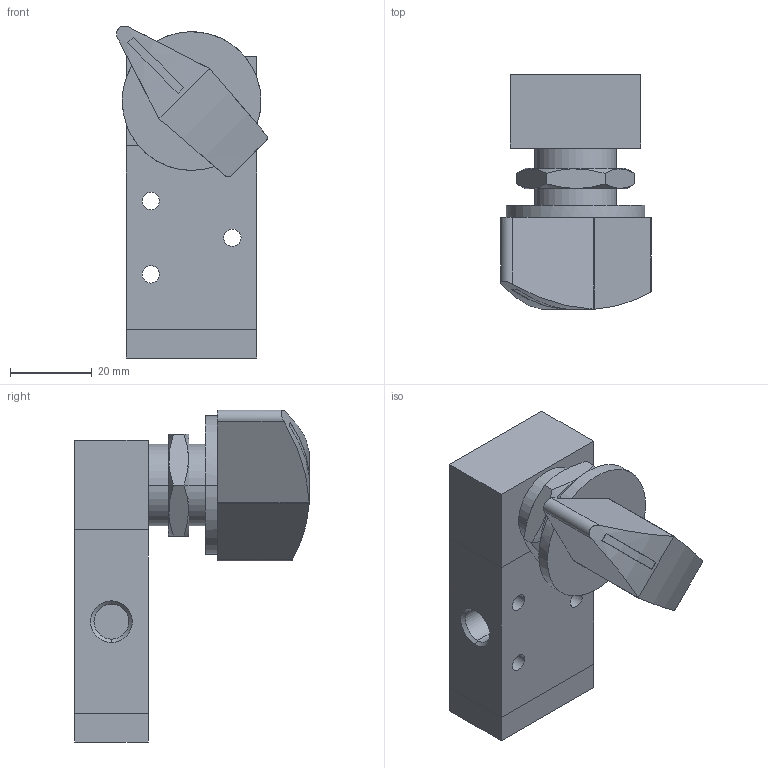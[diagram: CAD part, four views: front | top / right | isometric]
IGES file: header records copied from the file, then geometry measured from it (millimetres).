
Global section: file name: No Iges File Name specified; native system: AutoDesk Inventor R11.0; preprocessor: AutoDesk Inventor Iges Exporter R11.0; author: No Author specified; organization: No Organization specified; date: 20061219.114029; units: millimetre
Bounding box: 36.99 x 57.51 x 81.4 mm (x, y, z)
Volume: 60884.8 mm3; surface area: 15714.2 mm2
Topology: 2 solids, 2 shells, 81 faces, 190 edges, 121 vertices
Faces by surface type: plane 38, bspline 20, revolution 10, cylinder 9, cone 4
